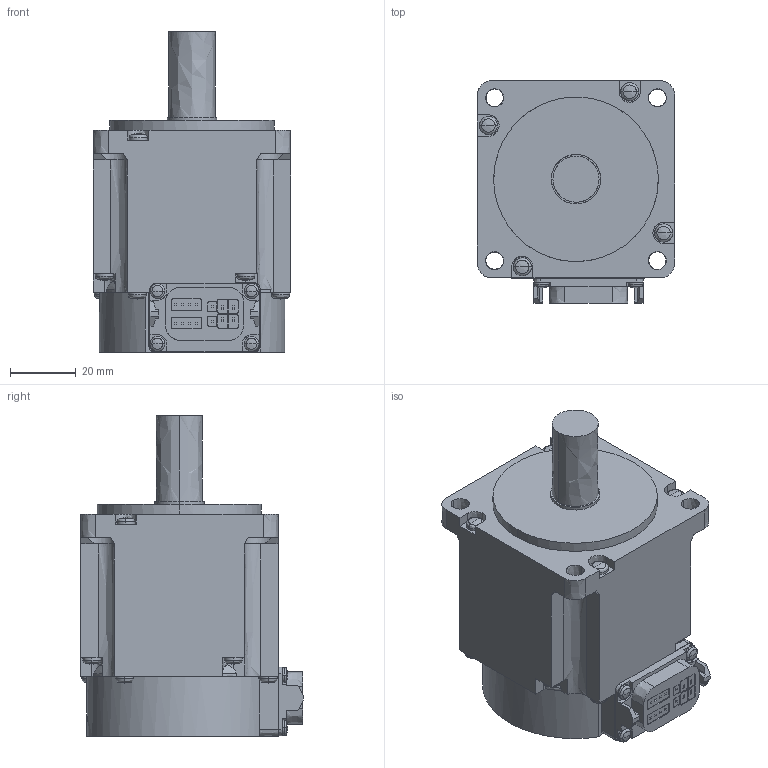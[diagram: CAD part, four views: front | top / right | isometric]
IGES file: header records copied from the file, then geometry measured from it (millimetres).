
Start section:  PTC IGES file: hk-kt23w_-_asm.igs
Global section: file name: hk-kt23w_-_asm.igs; native system: Creo Parametric by PTC Inc.; preprocessor: 2016380; author: XE90682; organization: Unknown; date: 20190115.172434; units: millimetre
Bounding box: 60 x 67.65 x 97.5 mm (x, y, z)
Volume: 220893.6 mm3; surface area: 25356.2 mm2
Topology: 1 solids, 1 shells, 401 faces, 1042 edges, 654 vertices
Faces by surface type: bspline 401
